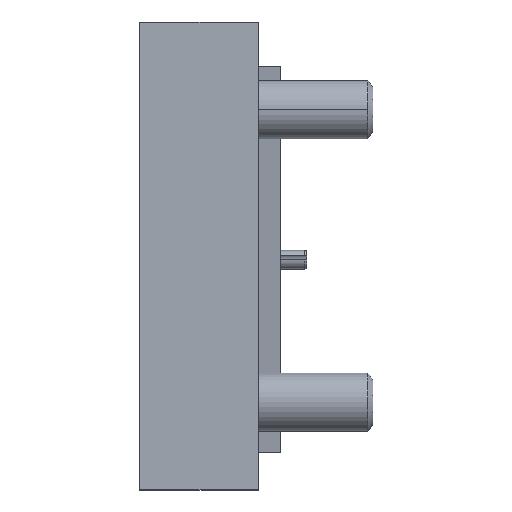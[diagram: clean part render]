
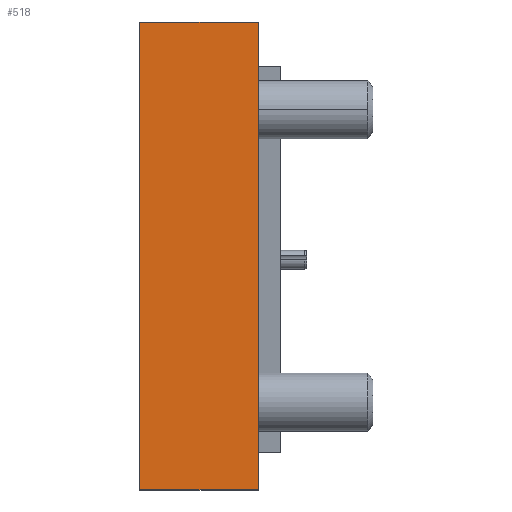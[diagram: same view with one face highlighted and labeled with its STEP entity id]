
A CAD part, left-side view. The second image highlights one B-rep face of the part: STEP entity #518.
In plain terms, the highlighted planar face has unit normal (-1, 0, 0).
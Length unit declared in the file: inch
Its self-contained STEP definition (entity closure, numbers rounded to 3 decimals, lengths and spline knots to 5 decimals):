
#27 = EDGE_CURVE ( 'NONE', #2775, #1860, #684, .T. ) ;
#152 = DIRECTION ( 'NONE',  ( 0., 0., -1. ) ) ;
#274 = EDGE_CURVE ( 'NONE', #2775, #937, #2358, .T. ) ;
#330 = EDGE_LOOP ( 'NONE', ( #474, #2079, #1047, #1724 ) ) ;
#474 = ORIENTED_EDGE ( 'NONE', *, *, #27, .T. ) ;
#490 = VECTOR ( 'NONE', #1474, 39.37008 ) ;
#518 = ADVANCED_FACE ( 'NONE', ( #2669 ), #2624, .F. ) ;
#554 = LINE ( 'NONE', #1041, #490 ) ;
#594 = CARTESIAN_POINT ( 'NONE',  ( 0.61576, 2.87792, 5.02501 ) ) ;
#598 = CARTESIAN_POINT ( 'NONE',  ( 0.61576, 2.87792, 1.87501 ) ) ;
#647 = VERTEX_POINT ( 'NONE', #1419 ) ;
#684 = LINE ( 'NONE', #1319, #1152 ) ;
#707 = AXIS2_PLACEMENT_3D ( 'NONE', #734, #709, #1162 ) ;
#709 = DIRECTION ( 'NONE',  ( 1., 0., 0. ) ) ;
#734 = CARTESIAN_POINT ( 'NONE',  ( 0.61576, 2.87792, 5.02501 ) ) ;
#937 = VERTEX_POINT ( 'NONE', #1504 ) ;
#1041 = CARTESIAN_POINT ( 'NONE',  ( 0.61576, 2.87792, 5.02501 ) ) ;
#1047 = ORIENTED_EDGE ( 'NONE', *, *, #1991, .T. ) ;
#1152 = VECTOR ( 'NONE', #2436, 39.37008 ) ;
#1162 = DIRECTION ( 'NONE',  ( 0., 1., 0. ) ) ;
#1319 = CARTESIAN_POINT ( 'NONE',  ( 0.61576, 2.07792, 5.02501 ) ) ;
#1419 = CARTESIAN_POINT ( 'NONE',  ( 0.61576, 2.87792, 5.02501 ) ) ;
#1474 = DIRECTION ( 'NONE',  ( 0., 1., 0. ) ) ;
#1500 = DIRECTION ( 'NONE',  ( 0., 1., 0. ) ) ;
#1504 = CARTESIAN_POINT ( 'NONE',  ( 0.61576, 2.87792, 1.87501 ) ) ;
#1724 = ORIENTED_EDGE ( 'NONE', *, *, #274, .F. ) ;
#1726 = EDGE_CURVE ( 'NONE', #1860, #647, #554, .T. ) ;
#1755 = VECTOR ( 'NONE', #1500, 39.37008 ) ;
#1860 = VERTEX_POINT ( 'NONE', #1937 ) ;
#1866 = LINE ( 'NONE', #594, #2728 ) ;
#1937 = CARTESIAN_POINT ( 'NONE',  ( 0.61576, 2.07792, 5.02501 ) ) ;
#1991 = EDGE_CURVE ( 'NONE', #647, #937, #1866, .T. ) ;
#2079 = ORIENTED_EDGE ( 'NONE', *, *, #1726, .T. ) ;
#2358 = LINE ( 'NONE', #598, #1755 ) ;
#2436 = DIRECTION ( 'NONE',  ( 0., 0., 1. ) ) ;
#2441 = CARTESIAN_POINT ( 'NONE',  ( 0.61576, 2.07792, 1.87501 ) ) ;
#2624 = PLANE ( 'NONE',  #707 ) ;
#2669 = FACE_OUTER_BOUND ( 'NONE', #330, .T. ) ;
#2728 = VECTOR ( 'NONE', #152, 39.37008 ) ;
#2775 = VERTEX_POINT ( 'NONE', #2441 ) ;
